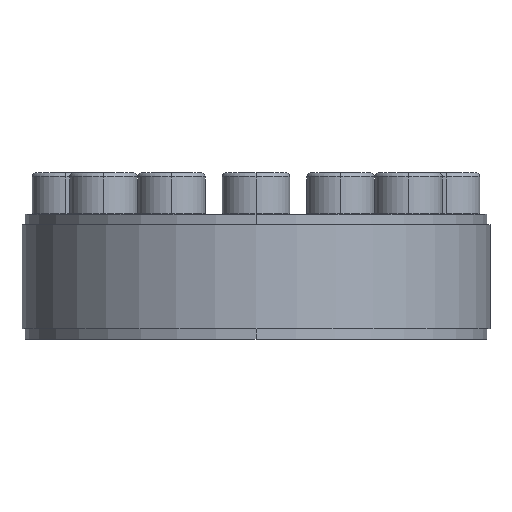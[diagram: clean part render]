
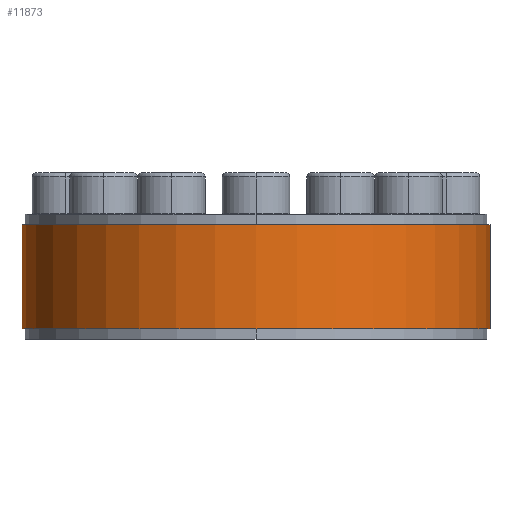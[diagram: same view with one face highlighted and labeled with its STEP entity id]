
A CAD part, left-side view. The second image highlights one B-rep face of the part: STEP entity #11873.
In plain terms, the highlighted cylindrical face has radius 45 mm (diameter 90 mm), a partial arc.
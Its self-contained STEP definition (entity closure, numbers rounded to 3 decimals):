
#11669=DIRECTION('',(0.,0.,1.));
#11670=VECTOR('',#11669,20.);
#11671=CARTESIAN_POINT('',(0.,45.,-10.));
#11672=LINE('',#11671,#11670);
#11676=DIRECTION('',(0.,0.,1.));
#11677=VECTOR('',#11676,20.);
#11678=CARTESIAN_POINT('',(0.,-45.,-10.));
#11679=LINE('',#11678,#11677);
#11683=CARTESIAN_POINT('',(0.,0.,-10.));
#11684=DIRECTION('',(0.,0.,1.));
#11685=DIRECTION('',(0.,1.,0.));
#11686=AXIS2_PLACEMENT_3D('',#11683,#11684,#11685);
#11691=CARTESIAN_POINT('',(0.,0.,10.));
#11692=DIRECTION('',(0.,0.,1.));
#11693=DIRECTION('',(0.,1.,0.));
#11694=AXIS2_PLACEMENT_3D('',#11691,#11692,#11693);
#11775=CARTESIAN_POINT('',(0.,45.,-10.));
#11776=CARTESIAN_POINT('',(0.,45.,10.));
#11777=VERTEX_POINT('',#11775);
#11778=VERTEX_POINT('',#11776);
#11779=CARTESIAN_POINT('',(0.,-45.,-10.));
#11780=CARTESIAN_POINT('',(0.,-45.,10.));
#11781=VERTEX_POINT('',#11779);
#11782=VERTEX_POINT('',#11780);
#11861=CARTESIAN_POINT('',(0.,0.,11.));
#11862=DIRECTION('',(0.,0.,-1.));
#11863=DIRECTION('',(0.,-1.,0.));
#11864=AXIS2_PLACEMENT_3D('',#11861,#11862,#11863);
#11865=CYLINDRICAL_SURFACE('',#11864,45.);
#11866=ORIENTED_EDGE('',*,*,#11844,.T.);
#11868=ORIENTED_EDGE('',*,*,#11867,.T.);
#11869=ORIENTED_EDGE('',*,*,#11847,.F.);
#11870=ORIENTED_EDGE('',*,*,#11822,.F.);
#11871=EDGE_LOOP('',(#11866,#11868,#11869,#11870));
#11872=FACE_OUTER_BOUND('',#11871,.F.);
#11873=ADVANCED_FACE('',(#11872),#11865,.T.);
#11687=CIRCLE('',#11686,45.);
#11695=CIRCLE('',#11694,45.);
#11822=EDGE_CURVE('',#11777,#11781,#11687,.T.);
#11844=EDGE_CURVE('',#11777,#11778,#11672,.T.);
#11847=EDGE_CURVE('',#11781,#11782,#11679,.T.);
#11867=EDGE_CURVE('',#11778,#11782,#11695,.T.);
